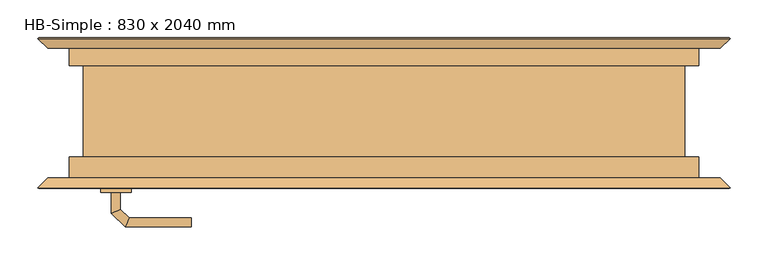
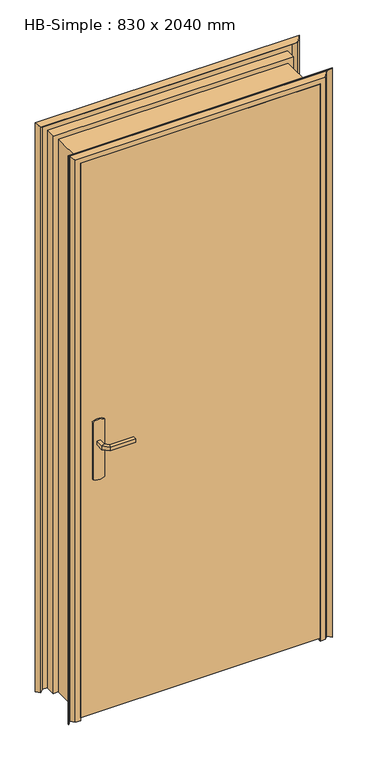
"""IFC4 building model written with IfcOpenShell, lengths in millimetres: door geometry, HB-Simple : 830 x 2040 mm."""

from ifc_helpers import new_model, si_unit, point, frame, frame_2d, origin, place, context, project, spatial, polyline, circle_curve, ellipse_curve, trimmed, segment, composite_curve, outline, extrude, faceted_brep, source, transform, mapped, element, save
from ifc_brep_helpers import plane_surface, cylinder_surface, advanced_brep


def hb_simple_830_x_2040_mm_5aab85cf(model_context):
    return source(origin(), model_context, "Body", "SolidModel", [
        advanced_brep(
        [(-349.0, -55.0, 993.0), (-349.0, -55.0, 1007.0), (-361.0, -55.0, 1007.0), (-361.0, -55.0, 993.0), (-349.0, -32.5147955, 993.0), (-349.0, -32.5147955, 1007.0), (-361.0, -27.5442327, 1007.0), (-361.0, -27.5442327, 993.0), (-337.5147186, -21.0295141, 993.0), (-337.5147186, -21.0295141, 1007.0), (-342.4852814, -9.0295141, 1007.0), (-342.4852814, -9.0295141, 993.0), (-254.9542163, -21.0295141, 993.0), (-254.9542163, -9.0295141, 993.0), (-254.9542163, -9.0295141, 1007.0), (-254.9542163, -21.0295141, 1007.0)],
        [
            (0, 1),
            (1, 2, circle_curve(frame((-355.0, -55.0, 986.9542278), z_axis=(0.0, -1.0, 0.0), x_axis=(-1.0, 0.0, 0.0)), 20.9244589)),
            (2, 3),
            (3, 0, circle_curve(frame((-355.0, -55.0, 1013.0457722), z_axis=(0.0, -1.0, 0.0), x_axis=(-1.0, 0.0, 0.0)), 20.9244589)),
            (0, 4),
            (4, 5),
            (5, 1),
            (5, 6, ellipse_curve(frame((-355.0, -30.0295141, 986.9542278), z_axis=(-0.38268343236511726, -0.9238795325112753, 0.0), x_axis=(0.9238795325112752, -0.38268343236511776, 0.0)), 22.6484711, 20.9244589)),
            (6, 2),
            (6, 7),
            (7, 3),
            (7, 4, ellipse_curve(frame((-355.0, -30.0295141, 1013.0457722), z_axis=(-0.38268343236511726, -0.9238795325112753, 0.0), x_axis=(0.9238795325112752, -0.38268343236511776, 0.0)), 22.6484711, 20.9244589)),
            (4, 8),
            (8, 9),
            (9, 5),
            (9, 10, ellipse_curve(frame((-340.0, -15.0295141, 986.9542278), z_axis=(-0.9238795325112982, -0.38268343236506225, 0.0), x_axis=(0.3826834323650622, -0.9238795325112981, 0.0)), 22.6484711, 20.9244589)),
            (10, 6),
            (10, 11),
            (11, 7),
            (11, 8, ellipse_curve(frame((-340.0, -15.0295141, 1013.0457722), z_axis=(-0.9238795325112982, -0.38268343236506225, 0.0), x_axis=(0.3826834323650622, -0.9238795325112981, 0.0)), 22.6484711, 20.9244589)),
            (12, 13, circle_curve(frame((-254.9542163, -15.0295141, 1013.0457722), z_axis=(1.0, 0.0, 0.0), x_axis=(0.0, 1.0, 0.0)), 20.9244589)),
            (13, 14),
            (14, 15, circle_curve(frame((-254.9542163, -15.0295141, 986.9542278), z_axis=(1.0, 0.0, 0.0), x_axis=(0.0, 1.0, 0.0)), 20.9244589)),
            (15, 12),
            (8, 12),
            (15, 9),
            (14, 10),
            (13, 11),
        ],
        [
            plane_surface(frame((-364.2195445, -55.0, 1000.0), z_axis=(0.0, -1.0, 0.0), x_axis=(0.0, 0.0, 1.0))),
            plane_surface(frame((-349.0, -55.0, 993.0), z_axis=(1.0, 0.0, 0.0), x_axis=(0.0, 1.0, 0.0))),
            cylinder_surface(frame((-355.0, -55.0, 986.9542278), z_axis=(0.0, -1.0, 0.0), x_axis=(-1.0, 0.0, 0.0)), 20.9244589),
            plane_surface(frame((-361.0, -55.0, 1007.0), z_axis=(-1.0, 0.0, 0.0), x_axis=(0.0, 1.0, 0.0))),
            cylinder_surface(frame((-355.0, -55.0, 1013.0457722), z_axis=(0.0, -1.0, 0.0), x_axis=(-1.0, 0.0, 0.0)), 20.9244589),
            plane_surface(frame((-349.0, -32.5147955, 993.0), z_axis=(0.7071067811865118, -0.7071067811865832, 0.0), x_axis=(0.7071067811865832, 0.7071067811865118, 0.0))),
            cylinder_surface(frame((-355.0, -30.0295141, 986.9542278), z_axis=(-0.7071067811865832, -0.7071067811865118, 0.0), x_axis=(-0.7071067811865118, 0.7071067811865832, 0.0)), 20.9244589),
            plane_surface(frame((-361.0, -27.5442327, 1007.0), z_axis=(-0.7071067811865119, 0.7071067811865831, 0.0), x_axis=(0.7071067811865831, 0.7071067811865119, 0.0))),
            cylinder_surface(frame((-355.0, -30.0295141, 1013.0457722), z_axis=(-0.7071067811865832, -0.7071067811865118, 0.0), x_axis=(-0.7071067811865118, 0.7071067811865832, 0.0)), 20.9244589),
            plane_surface(frame((-254.9542163, -15.0295141, 990.7804555), z_axis=(1.0, 0.0, 0.0), x_axis=(0.0, 1.0, 0.0))),
            plane_surface(frame((-337.5147186, -21.0295141, 993.0), z_axis=(0.0, -1.0, 0.0), x_axis=(1.0, 0.0, 0.0))),
            cylinder_surface(frame((-340.0, -15.0295141, 986.9542278), z_axis=(-1.0, 0.0, 0.0), x_axis=(0.0, 1.0, 0.0)), 20.9244589),
            plane_surface(frame((-342.4852814, -9.0295141, 1007.0), z_axis=(0.0, 1.0, 0.0), x_axis=(1.0, 0.0, 0.0))),
            cylinder_surface(frame((-340.0, -15.0295141, 1013.0457722), z_axis=(-1.0, 0.0, 0.0), x_axis=(0.0, 1.0, 0.0)), 20.9244589),
        ],
        [
            (0, [[1, 2, 3, 4]]),
            (1, [[-1, 5, 6, 7]]),
            (2, [[-2, -7, 8, 9]]),
            (3, [[-3, -9, 10, 11]]),
            (4, [[-4, -11, 12, -5]]),
            (5, [[-6, 13, 14, 15]]),
            (6, [[-8, -15, 16, 17]]),
            (7, [[-10, -17, 18, 19]]),
            (8, [[-12, -19, 20, -13]]),
            (9, [[21, 22, 23, 24]]),
            (10, [[-14, 25, -24, 26]]),
            (11, [[-16, -26, -23, 27]]),
            (12, [[-18, -27, -22, 28]]),
            (13, [[-20, -28, -21, -25]]),
        ],
    ),
        advanced_brep(
        [(-361.0, -105.0, 1007.0), (-349.0, -105.0, 1007.0), (-349.0, -105.0, 993.0), (-361.0, -105.0, 993.0), (-361.0, -132.6509507, 1007.0), (-349.0, -127.680388, 1007.0), (-349.0, -127.680388, 993.0), (-361.0, -132.6509507, 993.0), (-342.62279, -151.0281607, 1007.0), (-337.6522273, -139.0281607, 1007.0), (-337.6522273, -139.0281607, 993.0), (-342.62279, -151.0281607, 993.0), (-254.9813594, -151.0281607, 1007.0), (-254.9813594, -151.0281607, 993.0), (-254.9813594, -139.0281607, 993.0), (-254.9813594, -139.0281607, 1007.0)],
        [
            (0, 1, circle_curve(frame((-355.0, -105.0, 986.9542278), z_axis=(0.0, 1.0, 0.0), x_axis=(1.0, 0.0, 0.0)), 20.9244589)),
            (1, 2),
            (2, 3, circle_curve(frame((-355.0, -105.0, 1013.0457722), z_axis=(0.0, 1.0, 0.0), x_axis=(1.0, 0.0, 0.0)), 20.9244589)),
            (3, 0),
            (0, 4),
            (4, 5, ellipse_curve(frame((-355.0, -130.1656693, 986.9542278), z_axis=(-0.3826834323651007, 0.9238795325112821, 0.0), x_axis=(0.9238795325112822, 0.3826834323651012, 0.0)), 22.6484711, 20.9244589)),
            (5, 1),
            (5, 6),
            (6, 2),
            (6, 7, ellipse_curve(frame((-355.0, -130.1656693, 1013.0457722), z_axis=(-0.3826834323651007, 0.9238795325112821, 0.0), x_axis=(0.9238795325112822, 0.3826834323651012, 0.0)), 22.6484711, 20.9244589)),
            (7, 3),
            (7, 4),
            (4, 8),
            (8, 9, ellipse_curve(frame((-340.1375086, -145.0281607, 986.9542278), z_axis=(-0.9238795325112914, 0.3826834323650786, 0.0), x_axis=(0.38268343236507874, 0.9238795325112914, 0.0)), 22.6484711, 20.9244589)),
            (9, 5),
            (9, 10),
            (10, 6),
            (10, 11, ellipse_curve(frame((-340.1375086, -145.0281607, 1013.0457722), z_axis=(-0.9238795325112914, 0.3826834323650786, 0.0), x_axis=(0.38268343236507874, 0.9238795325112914, 0.0)), 22.6484711, 20.9244589)),
            (11, 7),
            (11, 8),
            (12, 13),
            (13, 14, circle_curve(frame((-254.9813594, -145.0281607, 1013.0457722), z_axis=(1.0, 0.0, 0.0), x_axis=(0.0, 1.0, 0.0)), 20.9244589)),
            (14, 15),
            (15, 12, circle_curve(frame((-254.9813594, -145.0281607, 986.9542278), z_axis=(1.0, 0.0, 0.0), x_axis=(0.0, 1.0, 0.0)), 20.9244589)),
            (8, 12),
            (15, 9),
            (14, 10),
            (13, 11),
        ],
        [
            plane_surface(frame((-364.2195445, -105.0, 1000.0), z_axis=(0.0, 1.0, 0.0), x_axis=(0.0, 0.0, -1.0))),
            cylinder_surface(frame((-355.0, -105.0, 986.9542278), z_axis=(0.0, 1.0, 0.0), x_axis=(1.0, 0.0, 0.0)), 20.9244589),
            plane_surface(frame((-349.0, -105.0, 1007.0), z_axis=(1.0, 0.0, 0.0), x_axis=(0.0, -1.0, 0.0))),
            cylinder_surface(frame((-355.0, -105.0, 1013.0457722), z_axis=(0.0, 1.0, 0.0), x_axis=(1.0, 0.0, 0.0)), 20.9244589),
            plane_surface(frame((-361.0, -105.0, 993.0), z_axis=(-1.0, 0.0, 0.0), x_axis=(0.0, -1.0, 0.0))),
            cylinder_surface(frame((-355.0, -130.1656693, 986.9542278), z_axis=(-0.7071067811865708, 0.7071067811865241, 0.0), x_axis=(0.7071067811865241, 0.7071067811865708, 0.0)), 20.9244589),
            plane_surface(frame((-349.0, -127.680388, 1007.0), z_axis=(0.7071067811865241, 0.7071067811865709, 0.0), x_axis=(0.7071067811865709, -0.7071067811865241, 0.0))),
            cylinder_surface(frame((-355.0, -130.1656693, 1013.0457722), z_axis=(-0.7071067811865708, 0.7071067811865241, 0.0), x_axis=(0.7071067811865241, 0.7071067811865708, 0.0)), 20.9244589),
            plane_surface(frame((-361.0, -132.6509507, 993.0), z_axis=(-0.7071067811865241, -0.7071067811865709, 0.0), x_axis=(0.7071067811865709, -0.7071067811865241, 0.0))),
            plane_surface(frame((-254.9813594, -145.0281607, 990.7804555), z_axis=(1.0, 0.0, 0.0), x_axis=(0.0, 1.0, 0.0))),
            cylinder_surface(frame((-340.1375086, -145.0281607, 986.9542278), z_axis=(-1.0, 0.0, 0.0), x_axis=(0.0, 1.0, 0.0)), 20.9244589),
            plane_surface(frame((-337.6522273, -139.0281607, 1007.0), z_axis=(0.0, 1.0, 0.0), x_axis=(1.0, 0.0, 0.0))),
            cylinder_surface(frame((-340.1375086, -145.0281607, 1013.0457722), z_axis=(-1.0, 0.0, 0.0), x_axis=(0.0, 1.0, 0.0)), 20.9244589),
            plane_surface(frame((-342.62279, -151.0281607, 993.0), z_axis=(0.0, -1.0, 0.0), x_axis=(1.0, 0.0, 0.0))),
        ],
        [
            (0, [[1, 2, 3, 4]]),
            (1, [[-1, 5, 6, 7]]),
            (2, [[-2, -7, 8, 9]]),
            (3, [[-3, -9, 10, 11]]),
            (4, [[-4, -11, 12, -5]]),
            (5, [[-6, 13, 14, 15]]),
            (6, [[-8, -15, 16, 17]]),
            (7, [[-10, -17, 18, 19]]),
            (8, [[-12, -19, 20, -13]]),
            (9, [[21, 22, 23, 24]]),
            (10, [[-14, 25, -24, 26]]),
            (11, [[-16, -26, -23, 27]]),
            (12, [[-18, -27, -22, 28]]),
            (13, [[-20, -28, -21, -25]]),
        ],
    ),
        extrude(outline(composite_curve([segment(trimmed(circle_curve(frame_2d((1045.3589838, -355.0)), 40.0), [point((1080.0, -335.0))], [point((1080.0, -375.0))], False, "CARTESIAN"), True, "CONTINUOUS"), segment(polyline([(1080.0, -375.0), (870.0, -375.0)]), True, "CONTINUOUS"), segment(trimmed(circle_curve(frame_2d((904.6410162, -355.0)), 40.0), [point((870.0, -375.0))], [point((870.0, -335.0))], False, "CARTESIAN"), True, "CONTINUOUS"), segment(polyline([(870.0, -335.0), (1080.0, -335.0)]), True, "CONTINUOUS")], self_intersect=False)), frame((0.0, -60.0, 0.0), z_axis=(0.0, 1.0, 0.0), x_axis=(0.0, 0.0, 1.0)), (0.0, 0.0, 1.0), 5.0),
        extrude(outline(composite_curve([segment(trimmed(circle_curve(frame_2d((904.6410162, -355.0)), 40.0), [point((870.0, -375.0))], [point((870.0, -335.0))], False, "CARTESIAN"), True, "CONTINUOUS"), segment(polyline([(870.0, -335.0), (1080.0, -335.0)]), True, "CONTINUOUS"), segment(trimmed(circle_curve(frame_2d((1045.3589838, -355.0)), 40.0), [point((1080.0, -335.0))], [point((1080.0, -375.0))], False, "CARTESIAN"), True, "CONTINUOUS"), segment(polyline([(1080.0, -375.0), (870.0, -375.0)]), True, "CONTINUOUS")], self_intersect=False)), frame((0.0, -105.0, 0.0), z_axis=(0.0, 1.0, 0.0), x_axis=(0.0, 0.0, 1.0)), (0.0, 0.0, 1.0), 5.0),
        extrude(outline(polyline([(-415.0, -60.0), (415.0, -60.0), (415.0, -100.0), (-415.0, -100.0), (-415.0, -60.0)])), frame((0.0, 0.0, 10.0), z_axis=(0.0, 0.0, 1.0), x_axis=(1.0, 0.0, 0.0)), (0.0, 0.0, 1.0), 2030.0),
        faceted_brep([(433.5, -100.0, 0.0), (415.5201865, -100.0, 0.0), (415.0, -98.9798135, 0.0), (415.0, -60.0, 0.0), (397.5186374, -60.0, 0.0), (396.5, -58.9813626, 0.0), (396.5, 64.0454714, 0.0), (397.4545286, 65.0, 0.0), (415.0, 65.0, 0.0), (415.0, 98.9205021, 0.0), (415.5794979, 100.0, 0.0), (433.5, 100.0, 0.0), (445.5, 88.0, 0.0), (457.5, 100.0, 0.0), (458.5, 99.0, 0.0), (445.5, 86.0, 0.0), (433.5, 98.0, 0.0), (416.5, 98.0, 0.0), (416.5, 63.0, 0.0), (398.5, 63.0, 0.0), (398.5, -58.0, 0.0), (416.5, -58.0, 0.0), (416.5, -98.0, 0.0), (433.5, -98.0, 0.0), (445.5, -86.0, 0.0), (458.5, -99.0, 0.0), (457.5, -100.0, 0.0), (445.5, -88.0, 0.0), (433.5, -100.0, 2058.5), (-433.5, -100.0, 2058.5), (-433.5, -100.0, 0.0), (-415.5201865, -100.0, 0.0), (-415.5201865, -100.0, 2040.5201865), (415.5201865, -100.0, 2040.5201865), (415.0, -98.9798135, 2040.0), (415.0, -60.0, 2040.0), (-415.0, -60.0, 2040.0), (-415.0, -60.0, 0.0), (-397.5186374, -60.0, 0.0), (-397.5186374, -60.0, 2022.5186374), (397.5186374, -60.0, 2022.5186374), (396.5, -58.9813626, 2021.5), (396.5, 64.0454714, 2021.5), (397.4545286, 65.0, 2022.4545286), (-397.4545286, 65.0, 2022.4545286), (-397.4545286, 65.0, 0.0), (-415.0, 65.0, 0.0), (-415.0, 65.0, 2040.0), (415.0, 65.0, 2040.0), (415.0, 98.9205021, 2040.0), (415.5794979, 100.0, 2040.5794979), (-415.5794979, 100.0, 2040.5794979), (-415.5794979, 100.0, 0.0), (-433.5, 100.0, 0.0), (-433.5, 100.0, 2058.5), (433.5, 100.0, 2058.5), (445.5, 88.0, 2070.5), (457.5, 100.0, 2082.5), (458.5, 99.0, 2083.5), (445.5, 86.0, 2070.5), (433.5, 98.0, 2058.5), (-433.5, 98.0, 2058.5), (-433.5, 98.0, 0.0), (-416.5, 98.0, 0.0), (-416.5, 98.0, 2041.5), (416.5, 98.0, 2041.5), (416.5, 63.0, 2041.5), (-416.5, 63.0, 2041.5), (-416.5, 63.0, 0.0), (-398.5, 63.0, 0.0), (-398.5, 63.0, 2023.5), (398.5, 63.0, 2023.5), (398.5, -58.0, 2023.5), (-398.5, -58.0, 2023.5), (-398.5, -58.0, 0.0), (-416.5, -58.0, 0.0), (-416.5, -58.0, 2041.5), (416.5, -58.0, 2041.5), (416.5, -98.0, 2041.5), (-416.5, -98.0, 2041.5), (-416.5, -98.0, 0.0), (-433.5, -98.0, 0.0), (-433.5, -98.0, 2058.5), (433.5, -98.0, 2058.5), (445.5, -86.0, 2070.5), (458.5, -99.0, 2083.5), (457.5, -100.0, 2082.5), (445.5, -88.0, 2070.5), (-445.5, -88.0, 0.0), (-457.5, -100.0, 0.0), (-458.5, -99.0, 0.0), (-445.5, -86.0, 0.0), (-445.5, 86.0, 0.0), (-458.5, 99.0, 0.0), (-457.5, 100.0, 0.0), (-445.5, 88.0, 0.0), (-415.0, 98.9205021, 0.0), (-396.5, 64.0454714, 0.0), (-396.5, -58.9813626, 0.0), (-415.0, -98.9798135, 0.0), (-445.5, -88.0, 2070.5), (-457.5, -100.0, 2082.5), (-458.5, -99.0, 2083.5), (-445.5, -86.0, 2070.5), (-445.5, 86.0, 2070.5), (-458.5, 99.0, 2083.5), (-457.5, 100.0, 2082.5), (-445.5, 88.0, 2070.5), (-415.0, 98.9205021, 2040.0), (-396.5, 64.0454714, 2021.5), (-396.5, -58.9813626, 2021.5), (-415.0, -98.9798135, 2040.0)], [[[0, 1, 2, 3, 4, 5, 6, 7, 8, 9, 10, 11, 12, 13, 14, 15, 16, 17, 18, 19, 20, 21, 22, 23, 24, 25, 26, 27]], [[1, 0, 28, 29, 30, 31, 32, 33]], [[2, 1, 33, 34]], [[3, 2, 34, 35]], [[4, 3, 35, 36, 37, 38, 39, 40]], [[5, 4, 40, 41]], [[6, 5, 41, 42]], [[7, 6, 42, 43]], [[8, 7, 43, 44, 45, 46, 47, 48]], [[9, 8, 48, 49]], [[10, 9, 49, 50]], [[11, 10, 50, 51, 52, 53, 54, 55]], [[12, 11, 55, 56]], [[13, 12, 56, 57]], [[14, 13, 57, 58]], [[15, 14, 58, 59]], [[16, 15, 59, 60]], [[17, 16, 60, 61, 62, 63, 64, 65]], [[18, 17, 65, 66]], [[19, 18, 66, 67, 68, 69, 70, 71]], [[20, 19, 71, 72]], [[21, 20, 72, 73, 74, 75, 76, 77]], [[22, 21, 77, 78]], [[23, 22, 78, 79, 80, 81, 82, 83]], [[24, 23, 83, 84]], [[25, 24, 84, 85]], [[26, 25, 85, 86]], [[27, 26, 86, 87]], [[0, 27, 87, 28]], [[30, 88, 89, 90, 91, 81, 80, 75, 74, 69, 68, 63, 62, 92, 93, 94, 95, 53, 52, 96, 46, 45, 97, 98, 38, 37, 99, 31]], [[29, 100, 88, 30]], [[100, 101, 89, 88]], [[101, 102, 90, 89]], [[102, 103, 91, 90]], [[103, 82, 81, 91]], [[79, 76, 75, 80]], [[73, 70, 69, 74]], [[67, 64, 63, 68]], [[61, 104, 92, 62]], [[104, 105, 93, 92]], [[105, 106, 94, 93]], [[106, 107, 95, 94]], [[107, 54, 53, 95]], [[51, 108, 96, 52]], [[108, 47, 46, 96]], [[44, 109, 97, 45]], [[109, 110, 98, 97]], [[110, 39, 38, 98]], [[36, 111, 99, 37]], [[111, 32, 31, 99]], [[35, 34, 111, 36]], [[42, 41, 110, 109]], [[49, 48, 47, 108]], [[66, 65, 64, 67]], [[72, 71, 70, 73]], [[78, 77, 76, 79]], [[34, 33, 32, 111]], [[41, 40, 39, 110]], [[43, 42, 109, 44]], [[50, 49, 108, 51]], [[56, 55, 54, 107]], [[57, 56, 107, 106]], [[58, 57, 106, 105]], [[59, 58, 105, 104]], [[60, 59, 104, 61]], [[84, 83, 82, 103]], [[85, 84, 103, 102]], [[86, 85, 102, 101]], [[87, 86, 101, 100]], [[28, 87, 100, 29]]]),
    ])


if __name__ == "__main__":
    model = new_model("IFC4")
    model_context = context("Model", 3, world=origin())
    ifc_project = project(units=[si_unit("LENGTHUNIT", "METRE", prefix="MILLI")], contexts=[model_context])
    site = spatial("IfcSite", under=ifc_project)
    building = spatial("IfcBuilding", under=site)
    placement = place(None, origin())
    hb_simple_830_x_2040_mm_shape = hb_simple_830_x_2040_mm_5aab85cf(model_context)
    element("IfcDoor", 1, ObjectType="HB-Simple : 830 x 2040 mm", at=placement, inside=building, context=model_context, shape_type="MappedRepresentation", body=[
        mapped(hb_simple_830_x_2040_mm_shape, transform((0.0, 0.0, 0.0), x_axis=(1.0, 0.0, 0.0), y_axis=(0.0, 1.0, 0.0), z_axis=(0.0, 0.0, 1.0))),
    ])
    save(model, "model.ifc")
